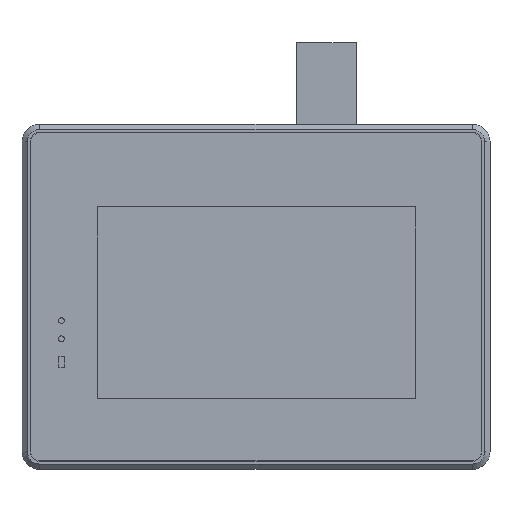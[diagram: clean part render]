
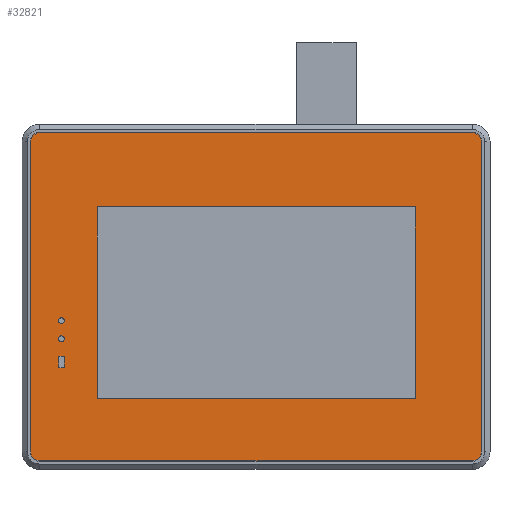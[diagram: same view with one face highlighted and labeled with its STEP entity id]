
A CAD part, front view. The second image highlights one B-rep face of the part: STEP entity #32821.
In plain terms, the highlighted planar face has unit normal (0, -1, 0).
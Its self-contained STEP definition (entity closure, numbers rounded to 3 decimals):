
#32158=CARTESIAN_POINT('',(74.,0.,53.));
#32159=DIRECTION('',(0.,-1.,0.));
#32160=DIRECTION('',(1.,0.,0.));
#32161=AXIS2_PLACEMENT_3D('',#32158,#32159,#32160);
#32163=DIRECTION('',(0.,0.,-1.));
#32164=VECTOR('',#32163,106.);
#32165=CARTESIAN_POINT('',(77.05,0.,53.));
#32166=LINE('',#32165,#32164);
#32167=CARTESIAN_POINT('',(74.,0.,-53.));
#32168=DIRECTION('',(0.,-1.,0.));
#32169=DIRECTION('',(0.,0.,-1.));
#32170=AXIS2_PLACEMENT_3D('',#32167,#32168,#32169);
#32172=DIRECTION('',(-1.,0.,0.));
#32173=VECTOR('',#32172,148.);
#32174=CARTESIAN_POINT('',(74.,0.,-56.05));
#32175=LINE('',#32174,#32173);
#32176=CARTESIAN_POINT('',(-74.,0.,-53.));
#32177=DIRECTION('',(0.,-1.,0.));
#32178=DIRECTION('',(-1.,0.,0.));
#32179=AXIS2_PLACEMENT_3D('',#32176,#32177,#32178);
#32181=DIRECTION('',(0.,0.,1.));
#32182=VECTOR('',#32181,106.);
#32183=CARTESIAN_POINT('',(-77.05,0.,-53.));
#32184=LINE('',#32183,#32182);
#32185=CARTESIAN_POINT('',(-74.,0.,53.));
#32186=DIRECTION('',(0.,-1.,0.));
#32187=DIRECTION('',(0.,0.,1.));
#32188=AXIS2_PLACEMENT_3D('',#32185,#32186,#32187);
#32190=DIRECTION('',(1.,0.,0.));
#32191=VECTOR('',#32190,148.);
#32192=CARTESIAN_POINT('',(-74.,0.,56.05));
#32193=LINE('',#32192,#32191);
#32194=DIRECTION('',(0.,0.,1.));
#32195=VECTOR('',#32194,65.6);
#32196=CARTESIAN_POINT('',(54.455,0.,-34.878));
#32197=LINE('',#32196,#32195);
#32198=DIRECTION('',(-1.,0.,0.));
#32199=VECTOR('',#32198,108.8);
#32200=CARTESIAN_POINT('',(54.463,0.,30.722));
#32201=LINE('',#32200,#32199);
#32202=DIRECTION('',(0.,0.,-1.));
#32203=VECTOR('',#32202,65.6);
#32204=CARTESIAN_POINT('',(-54.337,0.,30.735));
#32205=LINE('',#32204,#32203);
#32206=DIRECTION('',(1.,0.,0.));
#32207=VECTOR('',#32206,108.8);
#32208=CARTESIAN_POINT('',(-54.345,0.,-34.865));
#32209=LINE('',#32208,#32207);
#32210=CARTESIAN_POINT('',(-66.509,0.,-14.397));
#32211=DIRECTION('',(0.,-1.,0.));
#32212=DIRECTION('',(-1.,0.,0.));
#32213=AXIS2_PLACEMENT_3D('',#32210,#32211,#32212);
#32215=CARTESIAN_POINT('',(-66.509,0.,-14.397));
#32216=DIRECTION('',(0.,-1.,0.));
#32217=DIRECTION('',(1.,0.,0.));
#32218=AXIS2_PLACEMENT_3D('',#32215,#32216,#32217);
#32220=CARTESIAN_POINT('',(-66.508,0.,-8.174));
#32221=DIRECTION('',(0.,-1.,0.));
#32222=DIRECTION('',(-1.,0.,0.));
#32223=AXIS2_PLACEMENT_3D('',#32220,#32221,#32222);
#32225=CARTESIAN_POINT('',(-66.508,0.,-8.174));
#32226=DIRECTION('',(0.,-1.,0.));
#32227=DIRECTION('',(1.,0.,0.));
#32228=AXIS2_PLACEMENT_3D('',#32225,#32226,#32227);
#32230=DIRECTION('',(-1.,0.,0.));
#32231=VECTOR('',#32230,1.);
#32232=CARTESIAN_POINT('',(-66.01,0.,-20.255));
#32233=LINE('',#32232,#32231);
#32234=DIRECTION('',(0.,0.,-1.));
#32235=VECTOR('',#32234,3.);
#32236=CARTESIAN_POINT('',(-67.51,0.,-20.755));
#32237=LINE('',#32236,#32235);
#32238=DIRECTION('',(1.,0.,0.));
#32239=VECTOR('',#32238,1.);
#32240=CARTESIAN_POINT('',(-67.01,0.,-24.255));
#32241=LINE('',#32240,#32239);
#32242=DIRECTION('',(0.,0.,1.));
#32243=VECTOR('',#32242,3.);
#32244=CARTESIAN_POINT('',(-65.51,0.,-23.755));
#32245=LINE('',#32244,#32243);
#32562=CARTESIAN_POINT('',(-66.01,0.,-20.755));
#32563=DIRECTION('',(0.,1.,0.));
#32564=DIRECTION('',(0.,0.,1.));
#32565=AXIS2_PLACEMENT_3D('',#32562,#32563,#32564);
#32575=CARTESIAN_POINT('',(-66.01,0.,-23.755));
#32576=DIRECTION('',(0.,1.,0.));
#32577=DIRECTION('',(1.,0.,0.));
#32578=AXIS2_PLACEMENT_3D('',#32575,#32576,#32577);
#32588=CARTESIAN_POINT('',(-67.01,0.,-23.755));
#32589=DIRECTION('',(0.,1.,0.));
#32590=DIRECTION('',(0.,0.,-1.));
#32591=AXIS2_PLACEMENT_3D('',#32588,#32589,#32590);
#32601=CARTESIAN_POINT('',(-67.01,0.,-20.755));
#32602=DIRECTION('',(0.,1.,0.));
#32603=DIRECTION('',(-1.,0.,0.));
#32604=AXIS2_PLACEMENT_3D('',#32601,#32602,#32603);
#32614=CARTESIAN_POINT('',(77.05,0.,53.));
#32615=CARTESIAN_POINT('',(74.,0.,56.05));
#32616=VERTEX_POINT('',#32614);
#32617=VERTEX_POINT('',#32615);
#32622=CARTESIAN_POINT('',(-74.,0.,56.05));
#32623=CARTESIAN_POINT('',(-77.05,0.,53.));
#32624=VERTEX_POINT('',#32622);
#32625=VERTEX_POINT('',#32623);
#32630=CARTESIAN_POINT('',(-77.05,0.,-53.));
#32631=CARTESIAN_POINT('',(-74.,0.,-56.05));
#32632=VERTEX_POINT('',#32630);
#32633=VERTEX_POINT('',#32631);
#32638=CARTESIAN_POINT('',(74.,0.,-56.05));
#32639=CARTESIAN_POINT('',(77.05,0.,-53.));
#32640=VERTEX_POINT('',#32638);
#32641=VERTEX_POINT('',#32639);
#32654=CARTESIAN_POINT('',(54.455,0.,-34.878));
#32655=CARTESIAN_POINT('',(54.463,0.,30.722));
#32656=VERTEX_POINT('',#32654);
#32657=VERTEX_POINT('',#32655);
#32658=CARTESIAN_POINT('',(-54.337,0.,30.735));
#32659=VERTEX_POINT('',#32658);
#32660=CARTESIAN_POINT('',(-54.345,0.,-34.865));
#32661=VERTEX_POINT('',#32660);
#32662=CARTESIAN_POINT('',(-66.01,0.,-20.255));
#32663=CARTESIAN_POINT('',(-65.51,0.,-20.755));
#32664=VERTEX_POINT('',#32662);
#32665=VERTEX_POINT('',#32663);
#32666=CARTESIAN_POINT('',(-67.51,0.,-20.755));
#32667=CARTESIAN_POINT('',(-67.01,0.,-20.255));
#32668=VERTEX_POINT('',#32666);
#32669=VERTEX_POINT('',#32667);
#32670=CARTESIAN_POINT('',(-65.51,0.,-23.755));
#32671=CARTESIAN_POINT('',(-66.01,0.,-24.255));
#32672=VERTEX_POINT('',#32670);
#32673=VERTEX_POINT('',#32671);
#32674=CARTESIAN_POINT('',(-67.01,0.,-24.255));
#32675=CARTESIAN_POINT('',(-67.51,0.,-23.755));
#32676=VERTEX_POINT('',#32674);
#32677=VERTEX_POINT('',#32675);
#32686=CARTESIAN_POINT('',(-67.509,0.,-14.397));
#32687=CARTESIAN_POINT('',(-65.509,0.,-14.397));
#32688=VERTEX_POINT('',#32686);
#32689=VERTEX_POINT('',#32687);
#32690=CARTESIAN_POINT('',(-67.508,0.,-8.174));
#32691=CARTESIAN_POINT('',(-65.508,0.,-8.174));
#32692=VERTEX_POINT('',#32690);
#32693=VERTEX_POINT('',#32691);
#32758=CARTESIAN_POINT('',(0.,0.,0.));
#32759=DIRECTION('',(0.,1.,0.));
#32760=DIRECTION('',(1.,0.,0.));
#32761=AXIS2_PLACEMENT_3D('',#32758,#32759,#32760);
#32762=PLANE('',#32761);
#32764=ORIENTED_EDGE('',*,*,#32763,.F.);
#32766=ORIENTED_EDGE('',*,*,#32765,.T.);
#32768=ORIENTED_EDGE('',*,*,#32767,.F.);
#32770=ORIENTED_EDGE('',*,*,#32769,.T.);
#32772=ORIENTED_EDGE('',*,*,#32771,.F.);
#32774=ORIENTED_EDGE('',*,*,#32773,.T.);
#32776=ORIENTED_EDGE('',*,*,#32775,.F.);
#32778=ORIENTED_EDGE('',*,*,#32777,.T.);
#32779=EDGE_LOOP('',(#32764,#32766,#32768,#32770,#32772,#32774,#32776,#32778));
#32780=FACE_OUTER_BOUND('',#32779,.F.);
#32782=ORIENTED_EDGE('',*,*,#32781,.T.);
#32784=ORIENTED_EDGE('',*,*,#32783,.T.);
#32786=ORIENTED_EDGE('',*,*,#32785,.T.);
#32788=ORIENTED_EDGE('',*,*,#32787,.T.);
#32789=EDGE_LOOP('',(#32782,#32784,#32786,#32788));
#32790=FACE_BOUND('',#32789,.F.);
#32792=ORIENTED_EDGE('',*,*,#32791,.T.);
#32794=ORIENTED_EDGE('',*,*,#32793,.T.);
#32795=EDGE_LOOP('',(#32792,#32794));
#32796=FACE_BOUND('',#32795,.F.);
#32798=ORIENTED_EDGE('',*,*,#32797,.T.);
#32800=ORIENTED_EDGE('',*,*,#32799,.T.);
#32801=EDGE_LOOP('',(#32798,#32800));
#32802=FACE_BOUND('',#32801,.F.);
#32804=ORIENTED_EDGE('',*,*,#32803,.T.);
#32806=ORIENTED_EDGE('',*,*,#32805,.F.);
#32808=ORIENTED_EDGE('',*,*,#32807,.T.);
#32810=ORIENTED_EDGE('',*,*,#32809,.F.);
#32812=ORIENTED_EDGE('',*,*,#32811,.T.);
#32814=ORIENTED_EDGE('',*,*,#32813,.F.);
#32816=ORIENTED_EDGE('',*,*,#32815,.T.);
#32818=ORIENTED_EDGE('',*,*,#32817,.F.);
#32819=EDGE_LOOP('',(#32804,#32806,#32808,#32810,#32812,#32814,#32816,#32818));
#32820=FACE_BOUND('',#32819,.F.);
#32162=CIRCLE('',#32161,3.05);
#32171=CIRCLE('',#32170,3.05);
#32180=CIRCLE('',#32179,3.05);
#32189=CIRCLE('',#32188,3.05);
#32214=CIRCLE('',#32213,1.);
#32219=CIRCLE('',#32218,1.);
#32224=CIRCLE('',#32223,1.);
#32229=CIRCLE('',#32228,1.);
#32566=CIRCLE('',#32565,0.5);
#32579=CIRCLE('',#32578,0.5);
#32592=CIRCLE('',#32591,0.5);
#32605=CIRCLE('',#32604,0.5);
#32763=EDGE_CURVE('',#32616,#32617,#32162,.T.);
#32765=EDGE_CURVE('',#32616,#32641,#32166,.T.);
#32767=EDGE_CURVE('',#32640,#32641,#32171,.T.);
#32769=EDGE_CURVE('',#32640,#32633,#32175,.T.);
#32771=EDGE_CURVE('',#32632,#32633,#32180,.T.);
#32773=EDGE_CURVE('',#32632,#32625,#32184,.T.);
#32775=EDGE_CURVE('',#32624,#32625,#32189,.T.);
#32777=EDGE_CURVE('',#32624,#32617,#32193,.T.);
#32781=EDGE_CURVE('',#32656,#32657,#32197,.T.);
#32783=EDGE_CURVE('',#32657,#32659,#32201,.T.);
#32785=EDGE_CURVE('',#32659,#32661,#32205,.T.);
#32787=EDGE_CURVE('',#32661,#32656,#32209,.T.);
#32791=EDGE_CURVE('',#32688,#32689,#32214,.T.);
#32793=EDGE_CURVE('',#32689,#32688,#32219,.T.);
#32797=EDGE_CURVE('',#32692,#32693,#32224,.T.);
#32799=EDGE_CURVE('',#32693,#32692,#32229,.T.);
#32803=EDGE_CURVE('',#32664,#32669,#32233,.T.);
#32805=EDGE_CURVE('',#32668,#32669,#32605,.T.);
#32807=EDGE_CURVE('',#32668,#32677,#32237,.T.);
#32809=EDGE_CURVE('',#32676,#32677,#32592,.T.);
#32811=EDGE_CURVE('',#32676,#32673,#32241,.T.);
#32813=EDGE_CURVE('',#32672,#32673,#32579,.T.);
#32815=EDGE_CURVE('',#32672,#32665,#32245,.T.);
#32817=EDGE_CURVE('',#32664,#32665,#32566,.T.);
#32821=ADVANCED_FACE('',(#32780,#32790,#32796,#32802,#32820),#32762,.F.);
